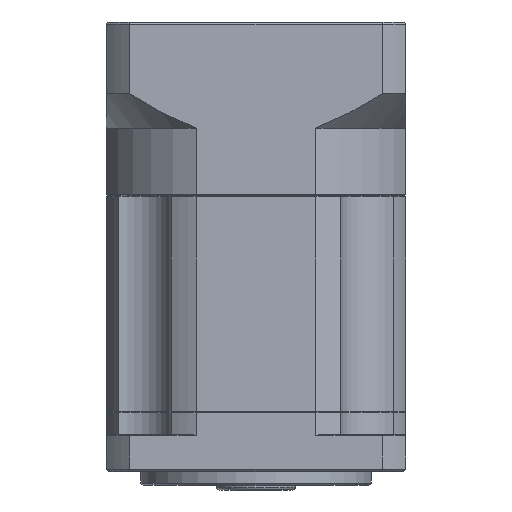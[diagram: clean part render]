
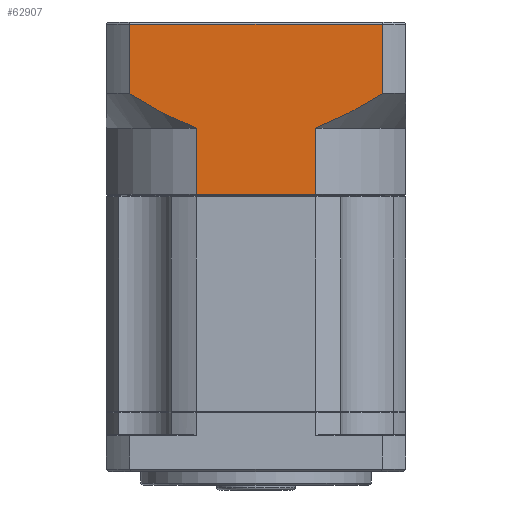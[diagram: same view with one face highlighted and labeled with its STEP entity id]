
A CAD part, front view. The second image highlights one B-rep face of the part: STEP entity #62907.
In plain terms, the highlighted planar face has unit normal (0, -1, 0).
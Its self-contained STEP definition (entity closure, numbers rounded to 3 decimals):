
#3515 = CARTESIAN_POINT ( 'NONE',  ( -14., 4.23, 3.255 ) ) ;
#3738 = ORIENTED_EDGE ( 'NONE', *, *, #17407, .F. ) ;
#4315 = VERTEX_POINT ( 'NONE', #13553 ) ;
#5332 = CARTESIAN_POINT ( 'NONE',  ( -54.376, 4.23, -4.245 ) ) ;
#5446 = CARTESIAN_POINT ( 'NONE',  ( -28.395, 4.23, -4.245 ) ) ;
#6138 = VECTOR ( 'NONE', #57499, 1000. ) ;
#6477 = ORIENTED_EDGE ( 'NONE', *, *, #36199, .F. ) ;
#7167 = VECTOR ( 'NONE', #12576, 1000. ) ;
#7439 = CARTESIAN_POINT ( 'NONE',  ( -8.886, 4.23, 18.755 ) ) ;
#7500 = LINE ( 'NONE', #48472, #6138 ) ;
#8813 = EDGE_CURVE ( 'NONE', #114540, #40537, #7500, .T. ) ;
#12576 = DIRECTION ( 'NONE',  ( 1., 0., 0. ) ) ;
#12736 = ORIENTED_EDGE ( 'NONE', *, *, #30337, .F. ) ;
#13228 = CARTESIAN_POINT ( 'NONE',  ( -57.542, 4.23, -2.955 ) ) ;
#13553 = CARTESIAN_POINT ( 'NONE',  ( -54.376, 4.23, -4.245 ) ) ;
#13796 = B_SPLINE_CURVE_WITH_KNOTS ( 'NONE', 3,
 ( #116985, #89270, #27107, #97573, #106696, #90040, #88874, #35033 ),
 .UNSPECIFIED., .F., .F.,
 ( 4, 2, 2, 4 ),
 ( 0.059, 0.063, 0.067, 0.075 ),
 .UNSPECIFIED. ) ;
#16812 = DIRECTION ( 'NONE',  ( 0., 0., 1. ) ) ;
#17407 = EDGE_CURVE ( 'NONE', #60996, #4315, #115319, .T. ) ;
#22727 = CARTESIAN_POINT ( 'NONE',  ( -68.772, 4.23, 3.255 ) ) ;
#23887 = DIRECTION ( 'NONE',  ( 0., 0., 1. ) ) ;
#25011 = FACE_OUTER_BOUND ( 'NONE', #30460, .T. ) ;
#27107 = CARTESIAN_POINT ( 'NONE',  ( -16.29, 4.23, 1.806 ) ) ;
#29266 = VECTOR ( 'NONE', #16812, 1000. ) ;
#30337 = EDGE_CURVE ( 'NONE', #49050, #40537, #85934, .T. ) ;
#30460 = EDGE_LOOP ( 'NONE', ( #110508, #105397, #12736, #6477, #3738, #64791, #91498, #51515 ) ) ;
#30815 = LINE ( 'NONE', #111655, #32324 ) ;
#31208 = DIRECTION ( 'NONE',  ( 0., 0., -1. ) ) ;
#32324 = VECTOR ( 'NONE', #31208, 1000. ) ;
#34778 = DIRECTION ( 'NONE',  ( -1., 0., 0. ) ) ;
#35033 = CARTESIAN_POINT ( 'NONE',  ( -28.395, 4.23, -4.245 ) ) ;
#36199 = EDGE_CURVE ( 'NONE', #4315, #49050, #90937, .T. ) ;
#36955 = VERTEX_POINT ( 'NONE', #3515 ) ;
#37008 = LINE ( 'NONE', #102549, #7167 ) ;
#40537 = VERTEX_POINT ( 'NONE', #111759 ) ;
#48472 = CARTESIAN_POINT ( 'NONE',  ( -68.772, 4.23, 18.255 ) ) ;
#49050 = VERTEX_POINT ( 'NONE', #116842 ) ;
#49431 = EDGE_CURVE ( 'NONE', #59075, #63598, #80456, .T. ) ;
#49699 = CARTESIAN_POINT ( 'NONE',  ( -28.395, 4.23, -4.245 ) ) ;
#50467 = CARTESIAN_POINT ( 'NONE',  ( -59.395, 4.23, -2.105 ) ) ;
#50870 = CARTESIAN_POINT ( 'NONE',  ( -64.188, 4.23, 0.405 ) ) ;
#51515 = ORIENTED_EDGE ( 'NONE', *, *, #90696, .F. ) ;
#57499 = DIRECTION ( 'NONE',  ( -1., 0., 0. ) ) ;
#59075 = VERTEX_POINT ( 'NONE', #49699 ) ;
#60996 = VERTEX_POINT ( 'NONE', #110913 ) ;
#61080 = EDGE_CURVE ( 'NONE', #60996, #63598, #37008, .T. ) ;
#62907 = ADVANCED_FACE ( 'NONE', ( #25011 ), #98484, .F. ) ;
#63598 = VERTEX_POINT ( 'NONE', #109821 ) ;
#64239 = AXIS2_PLACEMENT_3D ( 'NONE', #7439, #107639, #34778 ) ;
#64791 = ORIENTED_EDGE ( 'NONE', *, *, #61080, .T. ) ;
#68727 = CARTESIAN_POINT ( 'NONE',  ( -55.019, 4.23, -4.006 ) ) ;
#70006 = VECTOR ( 'NONE', #23887, 1000. ) ;
#77043 = CARTESIAN_POINT ( 'NONE',  ( -56.918, 4.23, -3.228 ) ) ;
#78045 = EDGE_CURVE ( 'NONE', #114540, #36955, #30815, .T. ) ;
#79520 = DIRECTION ( 'NONE',  ( 0., 0., -1. ) ) ;
#80456 = LINE ( 'NONE', #5446, #94595 ) ;
#85934 = LINE ( 'NONE', #107157, #29266 ) ;
#88874 = CARTESIAN_POINT ( 'NONE',  ( -25.856, 4.23, -3.302 ) ) ;
#89270 = CARTESIAN_POINT ( 'NONE',  ( -15.138, 4.23, 2.522 ) ) ;
#89315 = CARTESIAN_POINT ( 'NONE',  ( -14., 4.23, 18.255 ) ) ;
#90040 = CARTESIAN_POINT ( 'NONE',  ( -23.405, 4.23, -2.158 ) ) ;
#90696 = EDGE_CURVE ( 'NONE', #36955, #59075, #13796, .T. ) ;
#90937 = B_SPLINE_CURVE_WITH_KNOTS ( 'NONE', 3,
 ( #5332, #68727, #95225, #77043, #13228, #50467, #95983, #50870, #114226, #22727 ),
 .UNSPECIFIED., .F., .F.,
 ( 4, 2, 2, 2, 4 ),
 ( 0.101, 0.104, 0.106, 0.11, 0.118 ),
 .UNSPECIFIED. ) ;
#91498 = ORIENTED_EDGE ( 'NONE', *, *, #49431, .F. ) ;
#94595 = VECTOR ( 'NONE', #79520, 1000. ) ;
#95225 = CARTESIAN_POINT ( 'NONE',  ( -55.657, 4.23, -3.754 ) ) ;
#95983 = CARTESIAN_POINT ( 'NONE',  ( -60.607, 4.23, -1.5 ) ) ;
#97573 = CARTESIAN_POINT ( 'NONE',  ( -18.625, 4.23, 0.421 ) ) ;
#98484 = PLANE ( 'NONE',  #64239 ) ;
#102549 = CARTESIAN_POINT ( 'NONE',  ( -8.886, 4.23, -18.656 ) ) ;
#105397 = ORIENTED_EDGE ( 'NONE', *, *, #8813, .T. ) ;
#106305 = CARTESIAN_POINT ( 'NONE',  ( -54.376, 4.23, -4.245 ) ) ;
#106696 = CARTESIAN_POINT ( 'NONE',  ( -19.811, 4.23, -0.249 ) ) ;
#107157 = CARTESIAN_POINT ( 'NONE',  ( -68.772, 4.23, 0.755 ) ) ;
#107639 = DIRECTION ( 'NONE',  ( 0., 1., 0. ) ) ;
#109821 = CARTESIAN_POINT ( 'NONE',  ( -28.395, 4.23, -18.656 ) ) ;
#110508 = ORIENTED_EDGE ( 'NONE', *, *, #78045, .F. ) ;
#110913 = CARTESIAN_POINT ( 'NONE',  ( -54.376, 4.23, -18.656 ) ) ;
#111655 = CARTESIAN_POINT ( 'NONE',  ( -14., 4.23, 0.755 ) ) ;
#111759 = CARTESIAN_POINT ( 'NONE',  ( -68.772, 4.23, 18.255 ) ) ;
#114226 = CARTESIAN_POINT ( 'NONE',  ( -66.503, 4.23, 1.793 ) ) ;
#114540 = VERTEX_POINT ( 'NONE', #89315 ) ;
#115319 = LINE ( 'NONE', #106305, #70006 ) ;
#116842 = CARTESIAN_POINT ( 'NONE',  ( -68.772, 4.23, 3.255 ) ) ;
#116985 = CARTESIAN_POINT ( 'NONE',  ( -14., 4.23, 3.255 ) ) ;
